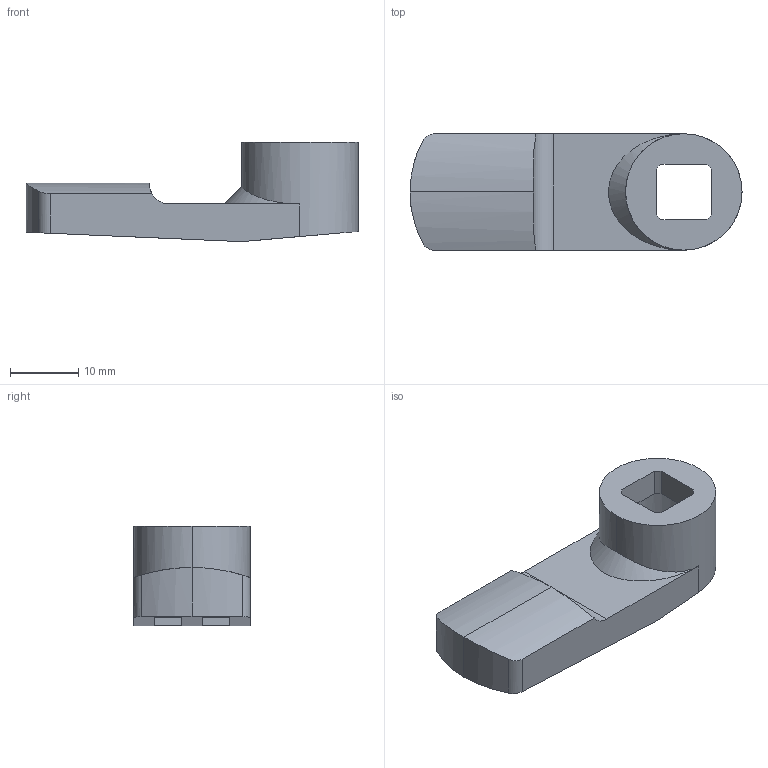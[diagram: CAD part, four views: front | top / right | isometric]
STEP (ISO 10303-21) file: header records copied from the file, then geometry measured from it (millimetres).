
FILE_DESCRIPTION (( 'STEP AP214' ), '1' );
FILE_NAME ('JP-10024.STEP', '2016-08-17T10:02:18', ( 'RST-Dolba' ), ( '' ), 'SwSTEP 2.0', 'SolidWorks 2015', '' );
FILE_SCHEMA (( 'AUTOMOTIVE_DESIGN' ));
Length unit declared in the file: millimetre
Products named in the file (1): JP-10024
Bounding box: 48.5 x 17 x 14.5 mm (x, y, z)
Volume: 4247.2 mm3; surface area: 3482.9 mm2
Topology: 1 solids, 1 shells, 49 faces, 129 edges, 85 vertices
Faces by surface type: plane 25, cylinder 23, bspline 1
Entity records: 1722 total; most frequent: CARTESIAN_POINT 484, ORIENTED_EDGE 258, DIRECTION 240, EDGE_CURVE 129, VERTEX_POINT 85, VECTOR 82, LINE 82, AXIS2_PLACEMENT_3D 79
